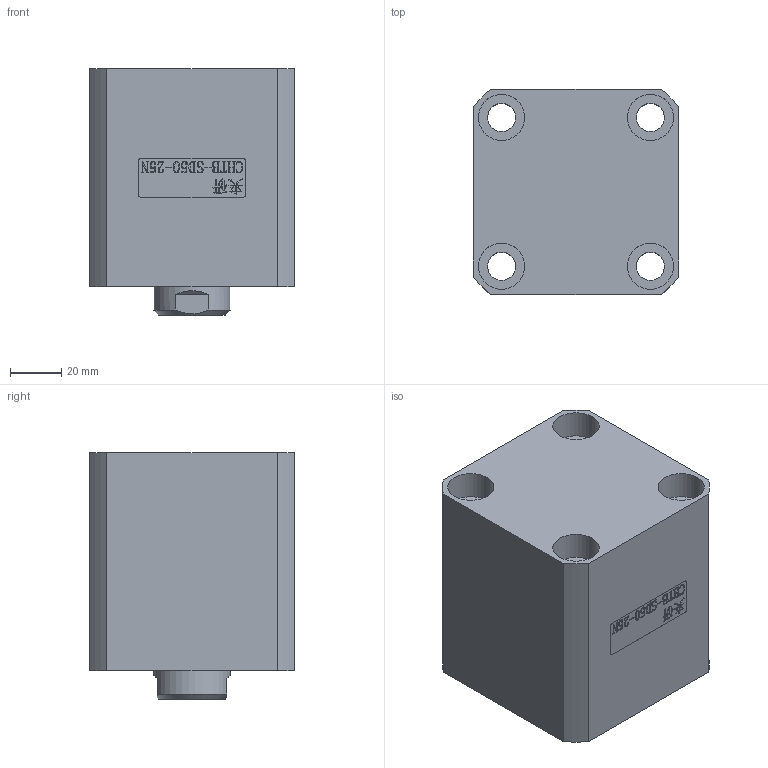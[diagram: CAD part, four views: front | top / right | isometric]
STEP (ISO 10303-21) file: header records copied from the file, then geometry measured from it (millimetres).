
FILE_DESCRIPTION(/* description */ (''),/* implementation_level */ '2;1');
FILE_NAME(/* name */ 'CHTB-SD50-25N.stp',/* time_stamp */ '2022-04-29T18:14:23+08:00',/* author */ (''),/* organization */ (''),/* preprocessor_version */ 'ST-DEVELOPER v16.7',/* originating_system */ 'SIEMENS PLM Software NX 12.0',/* authorisation */ '');
FILE_SCHEMA (('AUTOMOTIVE_DESIGN { 1 0 10303 214 3 1 1 1 }'));
Length unit declared in the file: millimetre
Products named in the file (1): CHTB-SD50-25N
Bounding box: 80 x 80 x 96 mm (x, y, z)
Volume: 450790.9 mm3; surface area: 95726.7 mm2
Topology: 3 solids, 3 shells, 405 faces, 1078 edges, 725 vertices
Faces by surface type: plane 247, extrusion 79, cylinder 50, torus 11, cone 10, bspline 8
Full cylindrical faces by diameter (mm): 4 x4, 10.7 x2, 11 x4, 18 x8, 19 x1, 30 x2, 39 x1, 44 x2, 46 x1, 50 x5, 55 x9, 59 x1
Entity records: 19228 total; most frequent: CARTESIAN_POINT 7882, ORIENTED_EDGE 1996, DIRECTION 1561, EDGE_CURVE 998, VECTOR 741, VERTEX_POINT 711, LINE 662, EDGE_LOOP 510
